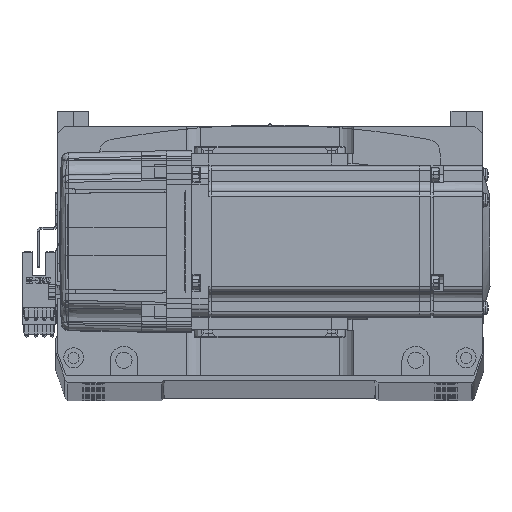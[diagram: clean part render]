
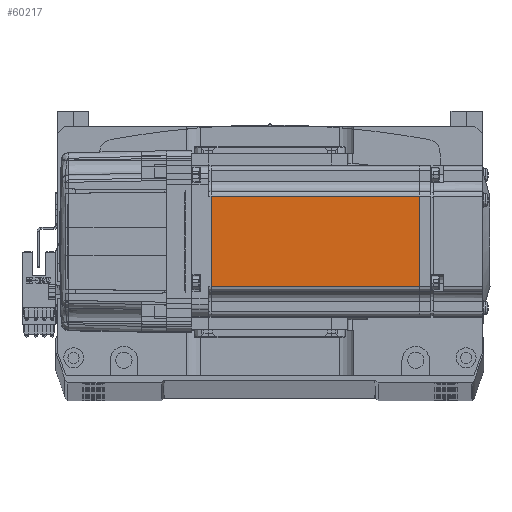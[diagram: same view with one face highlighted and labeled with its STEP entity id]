
A CAD part, top view. The second image highlights one B-rep face of the part: STEP entity #60217.
In plain terms, the highlighted planar face has unit normal (0, 0, 1) as drawn and (0, -1, 0) by its records, which use the part's own axes.
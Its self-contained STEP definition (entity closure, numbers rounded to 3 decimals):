
#1961 = DIRECTION ( 'NONE',  ( 0., 0., -1. ) ) ;
#3269 = CARTESIAN_POINT ( 'NONE',  ( -7.75, -30., -18. ) ) ;
#4132 = DIRECTION ( 'NONE',  ( 1., 0., 0. ) ) ;
#4886 = VECTOR ( 'NONE', #9191, 1000. ) ;
#6114 = CARTESIAN_POINT ( 'NONE',  ( -90.45, -30., 18. ) ) ;
#7732 = EDGE_CURVE ( 'NONE', #15665, #44434, #11308, .T. ) ;
#8780 = ORIENTED_EDGE ( 'NONE', *, *, #64412, .T. ) ;
#9191 = DIRECTION ( 'NONE',  ( -1., 0., 0. ) ) ;
#9817 = VECTOR ( 'NONE', #1961, 1000. ) ;
#10304 = LINE ( 'NONE', #43297, #4886 ) ;
#10428 = DIRECTION ( 'NONE',  ( 0., -1., 0. ) ) ;
#11308 = LINE ( 'NONE', #26621, #45692 ) ;
#15665 = VERTEX_POINT ( 'NONE', #3269 ) ;
#22830 = AXIS2_PLACEMENT_3D ( 'NONE', #45058, #10428, #27052 ) ;
#24909 = CARTESIAN_POINT ( 'NONE',  ( -90.45, -30., -25. ) ) ;
#25121 = LINE ( 'NONE', #24909, #9817 ) ;
#25293 = ORIENTED_EDGE ( 'NONE', *, *, #31432, .T. ) ;
#26621 = CARTESIAN_POINT ( 'NONE',  ( -7.75, -30., -25. ) ) ;
#27052 = DIRECTION ( 'NONE',  ( 0., 0., -1. ) ) ;
#30301 = FACE_OUTER_BOUND ( 'NONE', #58329, .T. ) ;
#31432 = EDGE_CURVE ( 'NONE', #44434, #68119, #10304, .T. ) ;
#33836 = CARTESIAN_POINT ( 'NONE',  ( -6.5, -30., -18. ) ) ;
#37756 = DIRECTION ( 'NONE',  ( 0., 0., 1. ) ) ;
#40581 = EDGE_CURVE ( 'NONE', #68477, #15665, #63733, .T. ) ;
#43297 = CARTESIAN_POINT ( 'NONE',  ( -6.5, -30., 18. ) ) ;
#43515 = PLANE ( 'NONE',  #22830 ) ;
#44434 = VERTEX_POINT ( 'NONE', #71113 ) ;
#45058 = CARTESIAN_POINT ( 'NONE',  ( -6.5, -30., -25. ) ) ;
#45692 = VECTOR ( 'NONE', #37756, 1000. ) ;
#48494 = CARTESIAN_POINT ( 'NONE',  ( -90.45, -30., -18. ) ) ;
#50525 = ORIENTED_EDGE ( 'NONE', *, *, #7732, .T. ) ;
#57418 = VECTOR ( 'NONE', #4132, 1000. ) ;
#58329 = EDGE_LOOP ( 'NONE', ( #50525, #25293, #8780, #59528 ) ) ;
#59528 = ORIENTED_EDGE ( 'NONE', *, *, #40581, .T. ) ;
#60217 = ADVANCED_FACE ( 'NONE', ( #30301 ), #43515, .T. ) ;
#63733 = LINE ( 'NONE', #33836, #57418 ) ;
#64412 = EDGE_CURVE ( 'NONE', #68119, #68477, #25121, .T. ) ;
#68119 = VERTEX_POINT ( 'NONE', #6114 ) ;
#68477 = VERTEX_POINT ( 'NONE', #48494 ) ;
#71113 = CARTESIAN_POINT ( 'NONE',  ( -7.75, -30., 18. ) ) ;
